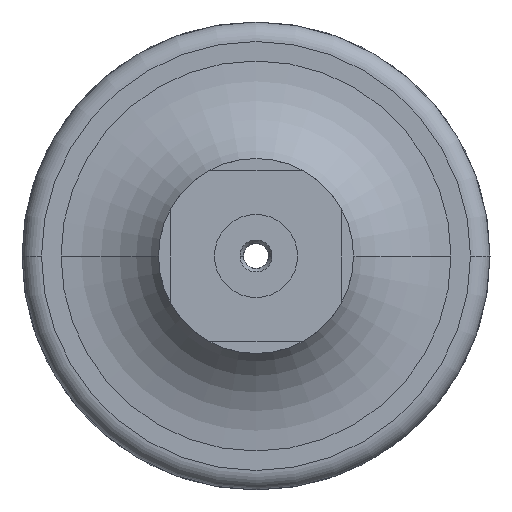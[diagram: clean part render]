
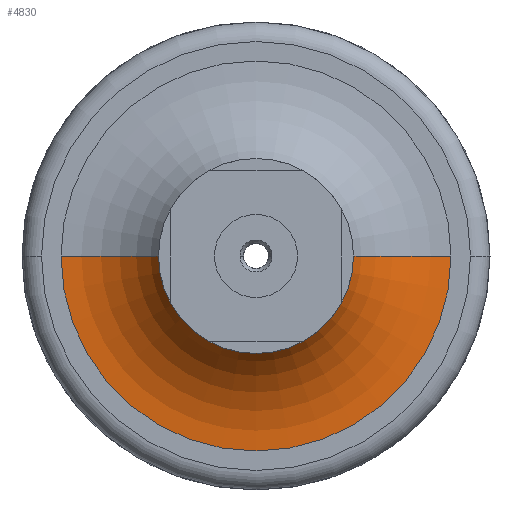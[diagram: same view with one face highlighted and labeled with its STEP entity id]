
A CAD part, left-side view. The second image highlights one B-rep face of the part: STEP entity #4830.
In plain terms, the highlighted toroidal (fillet/blend) face has major radius 12.7 mm and minor radius 7.62 mm.
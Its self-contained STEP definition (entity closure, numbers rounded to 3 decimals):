
#3760=CARTESIAN_POINT('',(47.865,57.251,-8.065));
#3770=VERTEX_POINT('',#3760);
#3850=CARTESIAN_POINT('',(47.865,47.091,-8.065));
#3860=VERTEX_POINT('',#3850);
#3890=CARTESIAN_POINT('',(47.865,52.171,-8.065));
#3900=DIRECTION('',(-1.,0.,0.));
#3910=DIRECTION('',(0.,1.,0.));
#3920=AXIS2_PLACEMENT_3D('',#3890,#3900,#3910);
#3930=CIRCLE('',#3920,5.08);
#3940=EDGE_CURVE('',#3770,#3860,#3930,.T.);
#4040=CARTESIAN_POINT('',(55.485,52.171,-8.065));
#4050=DIRECTION('',(-1.,0.,0.));
#4060=DIRECTION('',(0.,1.,0.));
#4070=AXIS2_PLACEMENT_3D('',#4040,#4050,#4060);
#4080=CIRCLE('',#4070,12.7);
#4090=CARTESIAN_POINT('',(55.485,39.471,-8.065));
#4100=VERTEX_POINT('',#4090);
#4110=CARTESIAN_POINT('',(55.485,64.871,-8.065));
#4120=VERTEX_POINT('',#4110);
#4150=EDGE_CURVE('',#4120,#4100,#4080,.T.);
#4600=CARTESIAN_POINT('',(47.865,52.171,-8.065));
#4610=DIRECTION('',(-1.,0.,0.));
#4620=DIRECTION('',(0.,1.,0.));
#4630=AXIS2_PLACEMENT_3D('',#4600,#4610,#4620);
#4640=TOROIDAL_SURFACE('',#4630,12.7,7.62);
#4650=CARTESIAN_POINT('',(47.865,39.471,-8.065));
#4660=DIRECTION('',(0.,0.,1.));
#4670=DIRECTION('',(0.,1.,-0.));
#4680=AXIS2_PLACEMENT_3D('',#4650,#4660,#4670);
#4690=CIRCLE('',#4680,7.62);
#4700=EDGE_CURVE('',#4100,#3860,#4690,.T.);
#4710=ORIENTED_EDGE('',*,*,#4700,.T.);
#4720=ORIENTED_EDGE('',*,*,#4150,.T.);
#4730=CARTESIAN_POINT('',(47.865,64.871,-8.065));
#4740=DIRECTION('',(0.,0.,-1.));
#4750=DIRECTION('',(0.,-1.,0.));
#4760=AXIS2_PLACEMENT_3D('',#4730,#4740,#4750);
#4770=CIRCLE('',#4760,7.62);
#4780=EDGE_CURVE('',#4120,#3770,#4770,.T.);
#4790=ORIENTED_EDGE('',*,*,#4780,.F.);
#4800=ORIENTED_EDGE('',*,*,#3940,.F.);
#4810=EDGE_LOOP('',(#4800,#4790,#4720,#4710));
#4820=FACE_OUTER_BOUND('',#4810,.T.);
#4830=ADVANCED_FACE('',(#4820),#4640,.F.);
